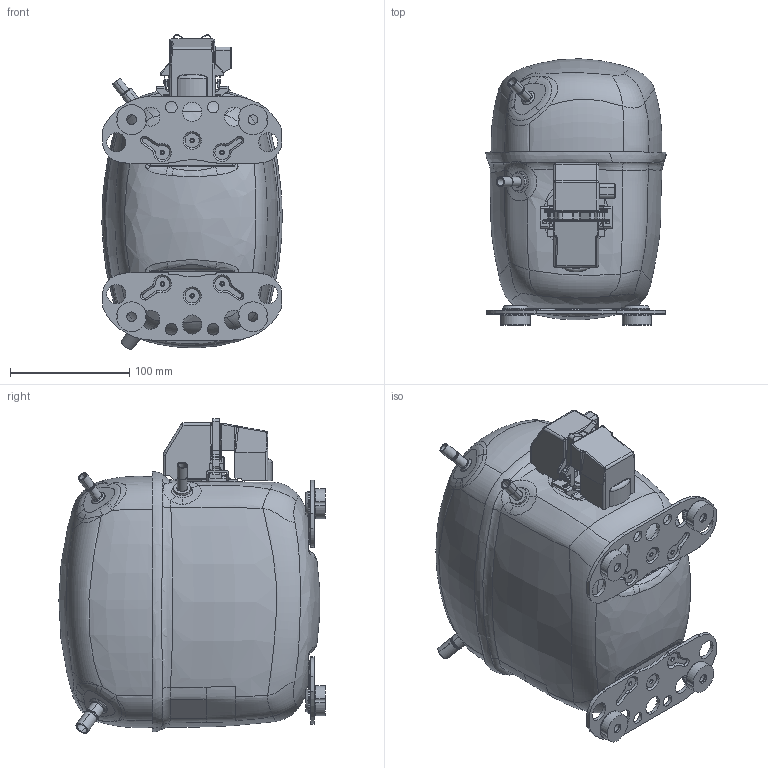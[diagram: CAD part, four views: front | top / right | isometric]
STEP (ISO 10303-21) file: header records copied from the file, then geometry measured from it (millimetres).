
FILE_DESCRIPTION((''),'2;1');
FILE_NAME('104B1422_104B1418_NONE_ASM','2018-11-13T',('CN6198'),(''),'CREO PARAMETRIC BY PTC INC, 2015380','CREO PARAMETRIC BY PTC INC, 2015380','');
FILE_SCHEMA(('CONFIG_CONTROL_DESIGN'));
Products named in the file (35): 104B1404_DES; 104B0321; 104B0378; 104B0480_AF0; 104B1046_ASM; 104B0516; 104B0480_AF1; 104B1461_ASM; 104B0517; 104B0480_AF2; 104B1462_ASM; 104B0504; 117-3619_BODY; 117-3619_RUBBER; 117-3619_GLASS_FUSED; 117-3619_PINS; 117-3619_CONNECTOR; 117-3619_ASM; 104B0673; 104B0635; 104B0677_BENT; 104B0687_BENT_ASM; 104B1422_ASM; 104B0606; 104B0646_AF0; 104B0682_AF1; 104B2517; 104B2515_16; 104B1418_ASM; 117U0440; 117U0414; 117U0424_AF0; 117U1021_ASM; 118-3661; 104B1422_104B1418_NONE_ASM
Assembly tree (44 placements, depth 4):
  104B1422_104B1418_NONE_ASM
    104B1422_ASM
      104B1404_DES
      104B0321  x2
      104B1046_ASM
        104B0378
        104B0480_AF0
      104B1461_ASM
        104B0516
        104B0480_AF1
      104B1462_ASM
        104B0517
        104B0480_AF2
      104B0504
      117-3619_ASM
        117-3619_BODY
        117-3619_RUBBER
        117-3619_GLASS_FUSED  x3
        117-3619_PINS  x3
        117-3619_CONNECTOR  x3
      104B0687_BENT_ASM
        104B0673
        104B0635
        104B0677_BENT
    104B1418_ASM
      104B0606
      104B0646_AF0
      104B0682_AF1
      104B2517
      104B2515_16
    117U0440
    117U1021_ASM
      117U0414
      117U0424_AF0
    118-3661  x4
Bounding box: 150.84 x 222.82 x 263.34 mm (x, y, z)
Volume: 561009.4 mm3; surface area: 408820 mm2
Topology: 36 solids, 36 shells, 2331 faces, 5707 edges, 3446 vertices
Faces by surface type: cylinder 620, plane 604, bspline 520, torus 292, cone 196, sphere 86, extrusion 13
Entity records: 150429 total; most frequent: CARTESIAN_POINT 105662, ORIENTED_EDGE 9756, DIRECTION 8419, EDGE_CURVE 4878, AXIS2_PLACEMENT_3D 3281, VERTEX_POINT 2981, EDGE_LOOP 2113, FACE_OUTER_BOUND 2000
